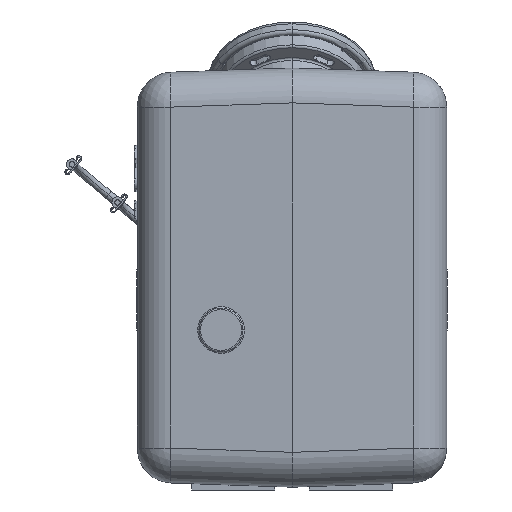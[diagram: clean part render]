
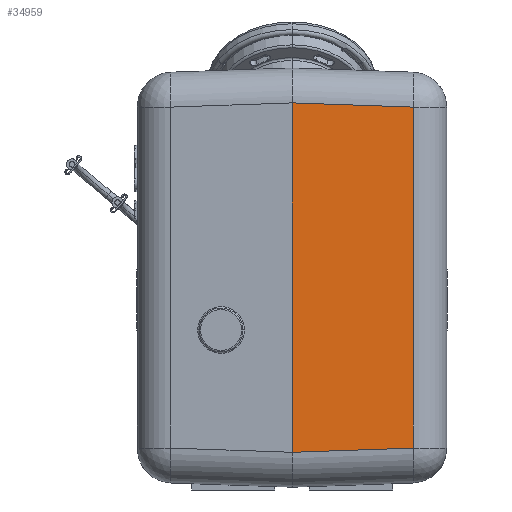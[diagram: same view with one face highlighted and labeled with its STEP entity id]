
A CAD part, front view. The second image highlights one B-rep face of the part: STEP entity #34959.
In plain terms, the highlighted planar face has unit normal (0.035, -0.999, 0) as drawn and (0.999, 0, -0.035) by its records, which use the part's own axes.
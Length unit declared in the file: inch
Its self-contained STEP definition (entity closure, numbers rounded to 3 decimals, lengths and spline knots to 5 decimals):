
#32251=DIRECTION('',(0.,-1.,0.));
#32252=VECTOR('',#32251,4.87961);
#32253=CARTESIAN_POINT('',(2.4895,3.18981,
-1.73245));
#32254=LINE('',#32253,#32252);
#32290=DIRECTION('',(-0.035,0.035,-0.999));
#32291=VECTOR('',#32290,1.73456);
#32292=CARTESIAN_POINT('',(2.55,-1.7503,0.));
#32293=LINE('',#32292,#32291);
#32346=DIRECTION('',(0.,1.,0.));
#32347=VECTOR('',#32346,5.00061);
#32348=CARTESIAN_POINT('',(2.55,-1.7503,0.));
#32349=LINE('',#32348,#32347);
#32505=DIRECTION('',(-0.035,-0.035,-0.999));
#32506=VECTOR('',#32505,1.73456);
#32507=CARTESIAN_POINT('',(2.55,3.2503,0.));
#32508=LINE('',#32507,#32506);
#33809=CARTESIAN_POINT('',(2.4895,3.18981,
-1.73245));
#33810=CARTESIAN_POINT('',(2.4895,-1.68981,
-1.73245));
#33811=VERTEX_POINT('',#33809);
#33812=VERTEX_POINT('',#33810);
#33825=CARTESIAN_POINT('',(2.55,3.2503,0.));
#33826=VERTEX_POINT('',#33825);
#33829=CARTESIAN_POINT('',(2.55,-1.7503,0.));
#33830=VERTEX_POINT('',#33829);
#34945=CARTESIAN_POINT('',(2.55,-2.25,0.));
#34946=DIRECTION('',(0.999,0.,-0.035));
#34947=DIRECTION('',(0.,1.,0.));
#34948=AXIS2_PLACEMENT_3D('',#34945,#34946,#34947);
#34949=PLANE('',#34948);
#34950=ORIENTED_EDGE('',*,*,#34936,.T.);
#34952=ORIENTED_EDGE('',*,*,#34951,.F.);
#34954=ORIENTED_EDGE('',*,*,#34953,.T.);
#34956=ORIENTED_EDGE('',*,*,#34955,.T.);
#34957=EDGE_LOOP('',(#34950,#34952,#34954,#34956));
#34958=FACE_OUTER_BOUND('',#34957,.F.);
#34959=ADVANCED_FACE('',(#34958),#34949,.T.);
#34936=EDGE_CURVE('',#33811,#33812,#32254,.T.);
#34951=EDGE_CURVE('',#33830,#33812,#32293,.T.);
#34953=EDGE_CURVE('',#33830,#33826,#32349,.T.);
#34955=EDGE_CURVE('',#33826,#33811,#32508,.T.);
